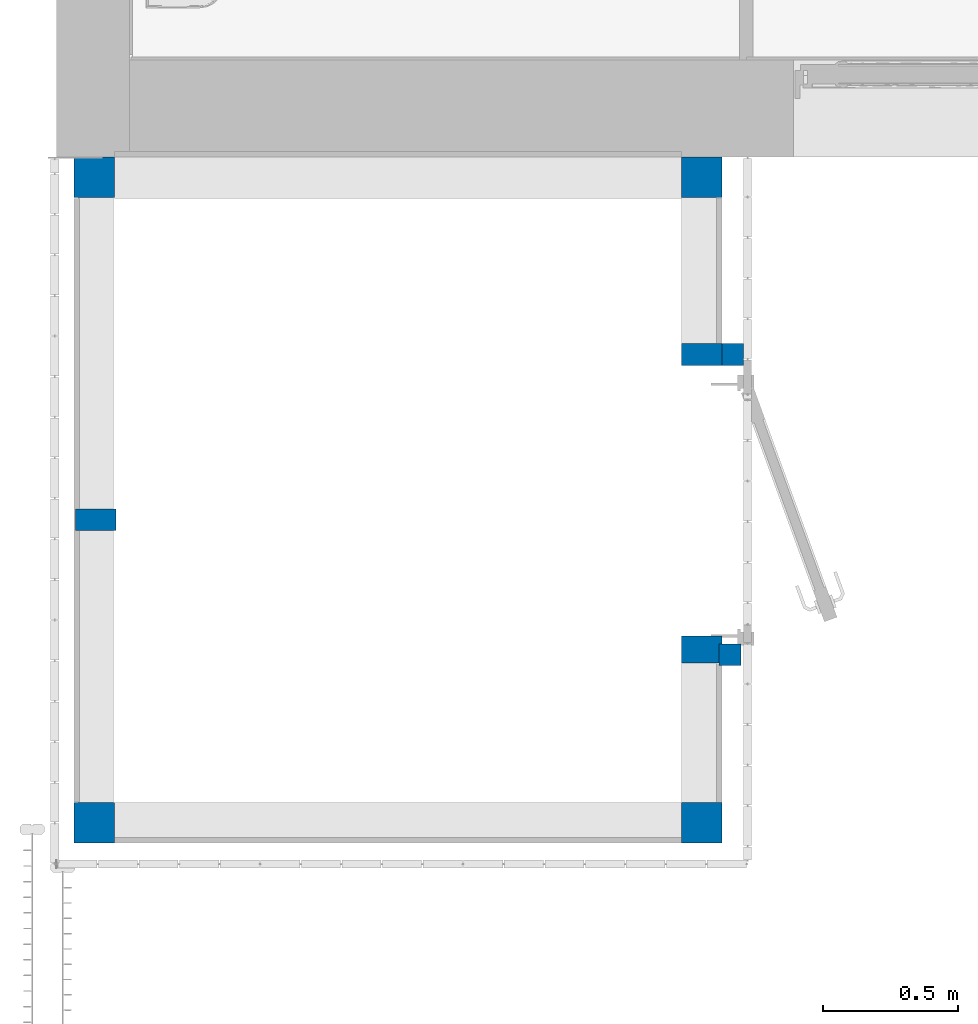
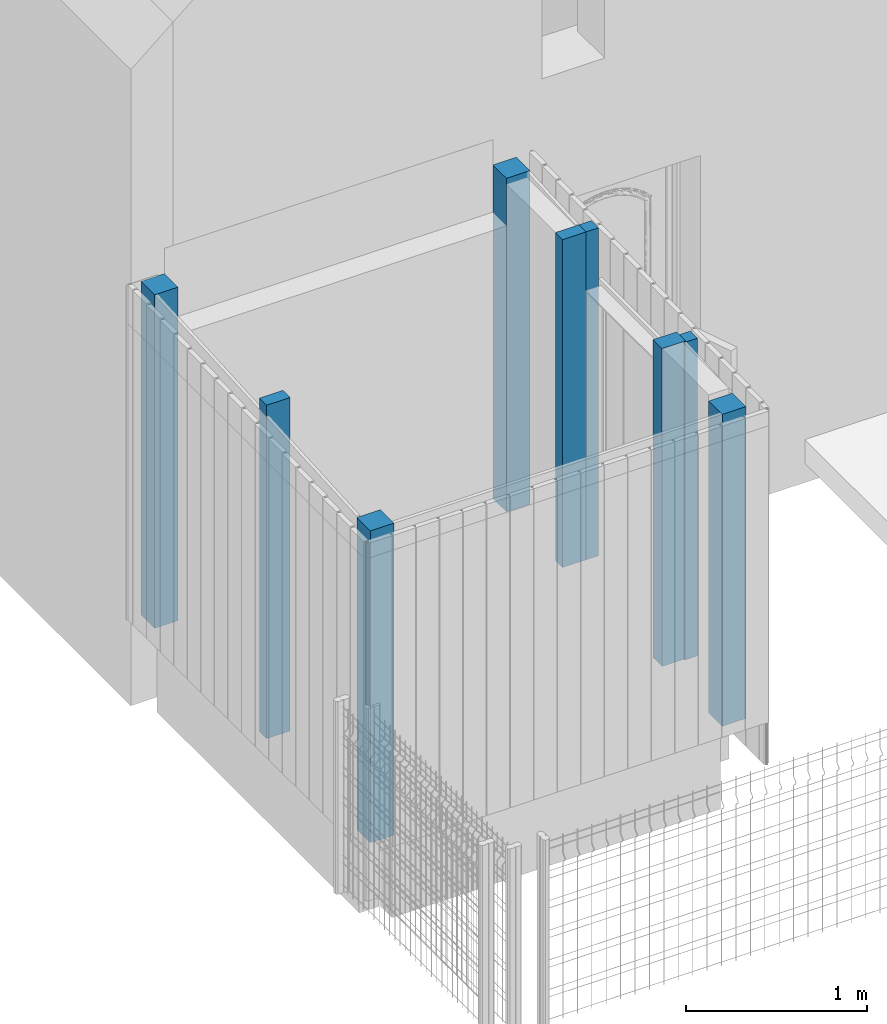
# One storey, part 1 of 81: 9 columns.
"""IFC2X3 building model written with IfcOpenShell, lengths in metres."""

from ifc_helpers import new_model, entity, si_unit, converted_unit, derived_unit, direction, frame, frame_2d, origin, origin_2d_with_axis, place, context, subcontext, project, spatial, rectangle, extrude, source, transform, mapped, material, type_object, type_shapes, element, save


model = new_model("IFC2X3")

# Units and contexts
model_context = context("Model", 3, precision=1e-05, world=origin(), true_north=direction((6.12303176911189e-17, 1.0)))
body_context = subcontext(model_context, "Body", "Model", "MODEL_VIEW")
ifc_project = project(units=[si_unit("LENGTHUNIT", "METRE"), si_unit("AREAUNIT", "SQUARE_METRE"), si_unit("VOLUMEUNIT", "CUBIC_METRE"), converted_unit("PLANEANGLEUNIT", "DEGREE", entity("IfcRatioMeasure", 0.0174532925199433), si_unit("PLANEANGLEUNIT", "RADIAN"), dimensions=[0, 0, 0, 0, 0, 0, 0]), si_unit("MASSUNIT", "GRAM", prefix="KILO"), derived_unit("MASSDENSITYUNIT", [(si_unit("MASSUNIT", "GRAM", prefix="KILO"), 1), (si_unit("LENGTHUNIT", "METRE"), -3)]), derived_unit("MOMENTOFINERTIAUNIT", [(si_unit("LENGTHUNIT", "METRE"), 4)]), si_unit("TIMEUNIT", "SECOND"), si_unit("FREQUENCYUNIT", "HERTZ"), si_unit("THERMODYNAMICTEMPERATUREUNIT", "DEGREE_CELSIUS"), derived_unit("THERMALTRANSMITTANCEUNIT", [(si_unit("MASSUNIT", "GRAM", prefix="KILO"), 1), (si_unit("THERMODYNAMICTEMPERATUREUNIT", "KELVIN"), -1), (si_unit("TIMEUNIT", "SECOND"), -3)]), derived_unit("VOLUMETRICFLOWRATEUNIT", [(si_unit("LENGTHUNIT", "METRE"), 3), (si_unit("TIMEUNIT", "SECOND"), -1)]), si_unit("ELECTRICCURRENTUNIT", "AMPERE"), si_unit("ELECTRICVOLTAGEUNIT", "VOLT"), si_unit("POWERUNIT", "WATT"), si_unit("FORCEUNIT", "NEWTON", prefix="KILO"), si_unit("ILLUMINANCEUNIT", "LUX"), si_unit("LUMINOUSFLUXUNIT", "LUMEN"), si_unit("LUMINOUSINTENSITYUNIT", "CANDELA"), derived_unit("USERDEFINED", [(si_unit("MASSUNIT", "GRAM", prefix="KILO"), -1), (si_unit("LENGTHUNIT", "METRE"), -2), (si_unit("TIMEUNIT", "SECOND"), 3), (si_unit("LUMINOUSFLUXUNIT", "LUMEN"), 1)]), derived_unit("LINEARVELOCITYUNIT", [(si_unit("LENGTHUNIT", "METRE"), 1), (si_unit("TIMEUNIT", "SECOND"), -1)]), si_unit("PRESSUREUNIT", "PASCAL"), derived_unit("USERDEFINED", [(si_unit("LENGTHUNIT", "METRE"), -2), (si_unit("MASSUNIT", "GRAM", prefix="KILO"), 1), (si_unit("TIMEUNIT", "SECOND"), -2)]), derived_unit("LINEARFORCEUNIT", [(si_unit("MASSUNIT", "GRAM", prefix="KILO"), 1), (si_unit("LENGTHUNIT", "METRE"), 1), (si_unit("TIMEUNIT", "SECOND"), -2), (si_unit("LENGTHUNIT", "METRE"), -1)]), derived_unit("PLANARFORCEUNIT", [(si_unit("MASSUNIT", "GRAM", prefix="KILO"), 1), (si_unit("LENGTHUNIT", "METRE"), 1), (si_unit("TIMEUNIT", "SECOND"), -2), (si_unit("LENGTHUNIT", "METRE"), -2)])], contexts=[model_context])

# Site, building, storey
site_placement = place(None, origin())
site = spatial("IfcSite", under=ifc_project, at=site_placement, Name="Surface", CompositionType="ELEMENT")
building_placement = place(site_placement, origin())
building = spatial("IfcBuilding", under=site, at=building_placement, CompositionType="ELEMENT")
storey_placement = place(building_placement, origin())
storey = spatial("IfcBuildingStorey", under=building, at=storey_placement, Name="01 RDC", CompositionType="ELEMENT", Elevation=-1.94916083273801e-14)

# Columns
ifc_material = material(Name="Bois - Pin")
column_type_1 = type_object("IfcColumnType", Name="Bois - Bois de construction de dimensions courantes:Poteau bois 15*15", PredefinedType="COLUMN", material=ifc_material)
shared_shape_1 = source(origin(), body_context, "Body", "SweptSolid", [
    extrude(rectangle(XDim=0.15, YDim=0.149999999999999, at=frame_2d((2.70616862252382e-16, 0.0), x_axis=(1.0, 0.0))), frame((5.60656158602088, -3.77096095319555, 0.29999999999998), z_axis=(0.0, 0.0, 1.0), x_axis=(0.0, -1.0, 0.0)), (0.0, 0.0, 1.0), 2.24930336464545),
])
type_shapes(column_type_1, [shared_shape_1])
column_1_placement = place(storey_placement, origin())
element("IfcColumn", 1, at=column_1_placement, inside=storey, type_object=column_type_1, material=ifc_material, Name="Bois - Bois de construction de dimensions courantes:Poteau bois 15*15", ObjectType="Bois - Bois de construction de dimensions courantes:Poteau bois 15*15", context=body_context, shape_type="MappedRepresentation", body=[
    mapped(shared_shape_1, transform((0.0, 0.0, 0.0), scale=1.0)),
])
column_type_2 = type_object("IfcColumnType", Name="Bois - Bois de construction de dimensions courantes:Poteau bois 15*15", PredefinedType="COLUMN", material=ifc_material)
shared_shape_2 = source(origin(), body_context, "Body", "SweptSolid", [
    extrude(rectangle(XDim=0.149999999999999, YDim=0.149999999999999, at=origin_2d_with_axis()), frame((5.60656158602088, -6.15596095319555, 0.29999999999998), z_axis=(0.0, 0.0, 1.0), x_axis=(0.0, -1.0, 0.0)), (0.0, 0.0, 1.0), 2.10343051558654),
])
type_shapes(column_type_2, [shared_shape_2])
column_2_placement = place(storey_placement, origin())
element("IfcColumn", 2, at=column_2_placement, inside=storey, type_object=column_type_2, material=ifc_material, Name="Bois - Bois de construction de dimensions courantes:Poteau bois 15*15", ObjectType="Bois - Bois de construction de dimensions courantes:Poteau bois 15*15", context=body_context, shape_type="MappedRepresentation", body=[
    mapped(shared_shape_2, transform((0.0, 0.0, 0.0), scale=1.0)),
])
column_type_3 = type_object("IfcColumnType", Name="Bois - Bois de construction de dimensions courantes:Poteau bois 15*15", PredefinedType="COLUMN", material=ifc_material)
shared_shape_3 = source(origin(), body_context, "Body", "SweptSolid", [
    extrude(rectangle(XDim=0.149999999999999, YDim=0.149999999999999, at=origin_2d_with_axis()), frame((7.85156158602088, -6.15596095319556, 0.29999999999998), z_axis=(0.0, 0.0, 1.0), x_axis=(0.0, -1.0, 0.0)), (0.0, 0.0, 1.0), 2.10343051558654),
])
type_shapes(column_type_3, [shared_shape_3])
column_3_placement = place(storey_placement, origin())
element("IfcColumn", 3, at=column_3_placement, inside=storey, type_object=column_type_3, material=ifc_material, Name="Bois - Bois de construction de dimensions courantes:Poteau bois 15*15", ObjectType="Bois - Bois de construction de dimensions courantes:Poteau bois 15*15", context=body_context, shape_type="MappedRepresentation", body=[
    mapped(shared_shape_3, transform((0.0, 0.0, 0.0), scale=1.0)),
])
column_type_4 = type_object("IfcColumnType", Name="Bois - Bois de construction de dimensions courantes:Poteau bois 15*15", PredefinedType="COLUMN", material=ifc_material)
shared_shape_4 = source(origin(), body_context, "Body", "SweptSolid", [
    extrude(rectangle(XDim=0.15, YDim=0.149999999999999, at=frame_2d((-2.70616862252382e-16, 0.0), x_axis=(1.0, 0.0))), frame((7.85156158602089, -3.77096095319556, 0.29999999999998), z_axis=(0.0, 0.0, 1.0), x_axis=(0.0, -1.0, 0.0)), (0.0, 0.0, 1.0), 2.24930336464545),
])
type_shapes(column_type_4, [shared_shape_4])
column_4_placement = place(storey_placement, origin())
element("IfcColumn", 4, at=column_4_placement, inside=storey, type_object=column_type_4, material=ifc_material, Name="Bois - Bois de construction de dimensions courantes:Poteau bois 15*15", ObjectType="Bois - Bois de construction de dimensions courantes:Poteau bois 15*15", context=body_context, shape_type="MappedRepresentation", body=[
    mapped(shared_shape_4, transform((0.0, 0.0, 0.0), scale=1.0)),
])
column_type_5 = type_object("IfcColumnType", Name="Bois - Bois de construction de dimensions courantes:Poteau bois 15*10", PredefinedType="COLUMN", material=ifc_material)
shared_shape_5 = source(origin(), body_context, "Body", "SweptSolid", [
    extrude(rectangle(XDim=0.1, YDim=0.149999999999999, at=frame_2d((-5.41233724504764e-16, 0.0), x_axis=(1.0, 0.0))), frame((7.85156158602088, -5.51576095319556, 0.29999999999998), z_axis=(0.0, 0.0, 1.0), x_axis=(0.0, -1.0, 0.0)), (0.0, 0.0, 1.0), 2.14411589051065),
])
type_shapes(column_type_5, [shared_shape_5])
column_5_placement = place(storey_placement, origin())
element("IfcColumn", 5, at=column_5_placement, inside=storey, type_object=column_type_5, material=ifc_material, Name="Bois - Bois de construction de dimensions courantes:Poteau bois 15*10", ObjectType="Bois - Bois de construction de dimensions courantes:Poteau bois 15*10", context=body_context, shape_type="MappedRepresentation", body=[
    mapped(shared_shape_5, transform((0.0, 0.0, 0.0), scale=1.0)),
])
column_type_6 = type_object("IfcColumnType", Name="Bois - Bois de construction de dimensions courantes:Poteau bois 6*6", PredefinedType="COLUMN", material=ifc_material)
shared_shape_6 = source(origin(), body_context, "Body", "SweptSolid", [
    extrude(rectangle(XDim=0.0800000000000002, YDim=0.0800000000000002, at=frame_2d((0.0, 5.41233724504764e-16), x_axis=(1.0, 0.0))), frame((7.95656158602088, -5.53576095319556, 0.29999999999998), z_axis=(0.0, 0.0, 1.0), x_axis=(0.0, -1.0, 0.0)), (0.0, 0.0, 1.0), 2.14350426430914),
])
type_shapes(column_type_6, [shared_shape_6])
column_6_placement = place(storey_placement, origin())
element("IfcColumn", 6, at=column_6_placement, inside=storey, type_object=column_type_6, material=ifc_material, Name="Bois - Bois de construction de dimensions courantes:Poteau bois 6*6", ObjectType="Bois - Bois de construction de dimensions courantes:Poteau bois 6*6", context=body_context, shape_type="MappedRepresentation", body=[
    mapped(shared_shape_6, transform((0.0, 0.0, 0.0), scale=1.0)),
])
column_type_7 = type_object("IfcColumnType", Name="Bois - Bois de construction de dimensions courantes:Poteau bois 15*08", PredefinedType="COLUMN", material=ifc_material)
shared_shape_7 = source(origin(), body_context, "Body", "SweptSolid", [
    extrude(rectangle(XDim=0.0800000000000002, YDim=0.149999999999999, at=origin_2d_with_axis()), frame((7.85156158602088, -4.42576095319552, 0.29999999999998), z_axis=(0.0, 0.0, 1.0), x_axis=(0.0, -1.0, 0.0)), (0.0, 0.0, 1.0), 2.21139477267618),
])
type_shapes(column_type_7, [shared_shape_7])
column_7_placement = place(storey_placement, origin())
element("IfcColumn", 7, at=column_7_placement, inside=storey, type_object=column_type_7, material=ifc_material, Name="Bois - Bois de construction de dimensions courantes:Poteau bois 15*08", ObjectType="Bois - Bois de construction de dimensions courantes:Poteau bois 15*08", context=body_context, shape_type="MappedRepresentation", body=[
    mapped(shared_shape_7, transform((0.0, 0.0, 0.0), scale=1.0)),
])
column_type_8 = type_object("IfcColumnType", Name="Bois - Bois de construction de dimensions courantes:Poteau bois 6*6", PredefinedType="COLUMN", material=ifc_material)
shared_shape_8 = source(origin(), body_context, "Body", "SweptSolid", [
    extrude(rectangle(XDim=0.0800000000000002, YDim=0.0800000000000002, at=frame_2d((0.0, -5.41233724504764e-16), x_axis=(1.0, 0.0))), frame((7.96656158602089, -4.42576095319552, 0.29999999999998), z_axis=(0.0, 0.0, 1.0), x_axis=(0.0, -1.0, 0.0)), (0.0, 0.0, 1.0), 2.21139477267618),
])
type_shapes(column_type_8, [shared_shape_8])
column_8_placement = place(storey_placement, origin())
element("IfcColumn", 8, at=column_8_placement, inside=storey, type_object=column_type_8, material=ifc_material, Name="Bois - Bois de construction de dimensions courantes:Poteau bois 6*6", ObjectType="Bois - Bois de construction de dimensions courantes:Poteau bois 6*6", context=body_context, shape_type="MappedRepresentation", body=[
    mapped(shared_shape_8, transform((0.0, 0.0, 0.0), scale=1.0)),
])
column_type_9 = type_object("IfcColumnType", Name="Bois - Bois de construction de dimensions courantes:Poteau bois 15*08", PredefinedType="COLUMN", material=ifc_material)
shared_shape_9 = source(origin(), body_context, "Body", "SweptSolid", [
    extrude(rectangle(XDim=0.0800000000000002, YDim=0.149999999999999, at=origin_2d_with_axis()), frame((5.61156158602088, -5.03596095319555, 0.29999999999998), z_axis=(0.0, 0.0, 1.0), x_axis=(0.0, -1.0, 0.0)), (0.0, 0.0, 1.0), 2.24930336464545),
])
type_shapes(column_type_9, [shared_shape_9])
column_9_placement = place(storey_placement, origin())
element("IfcColumn", 9, at=column_9_placement, inside=storey, type_object=column_type_9, material=ifc_material, Name="Bois - Bois de construction de dimensions courantes:Poteau bois 15*08", ObjectType="Bois - Bois de construction de dimensions courantes:Poteau bois 15*08", context=body_context, shape_type="MappedRepresentation", body=[
    mapped(shared_shape_9, transform((0.0, 0.0, 0.0), scale=1.0)),
])

save(model, "model.ifc")
